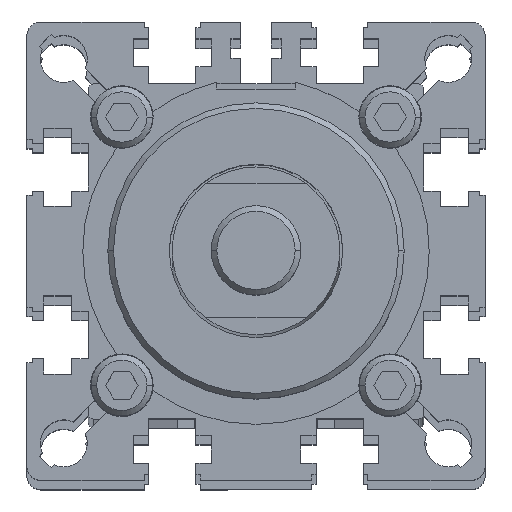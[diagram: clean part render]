
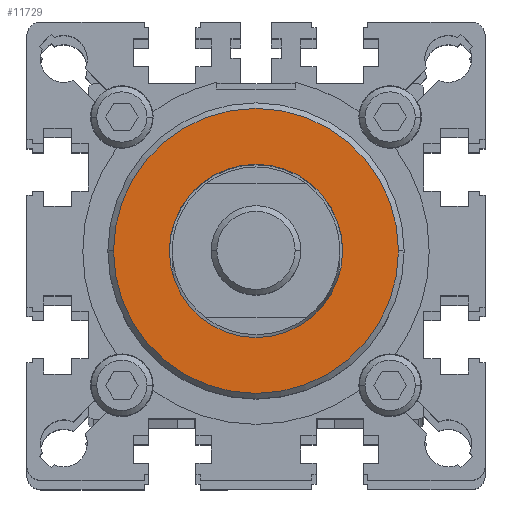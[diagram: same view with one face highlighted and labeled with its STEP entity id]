
A CAD part, top view. The second image highlights one B-rep face of the part: STEP entity #11729.
In plain terms, the highlighted planar face has unit normal (0, 0, 1) as drawn and (1, 0, 0) by its records, which use the part's own axes.
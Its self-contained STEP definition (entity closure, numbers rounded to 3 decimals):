
#1478 = CIRCLE ( 'NONE', #7503, 25.5 ) ;
#1507 = CARTESIAN_POINT ( 'NONE',  ( 20., 0., 15.5 ) ) ;
#1859 = EDGE_LOOP ( 'NONE', ( #17895, #16925 ) ) ;
#2451 = DIRECTION ( 'NONE',  ( 0., 0., -1. ) ) ;
#3066 = AXIS2_PLACEMENT_3D ( 'NONE', #14103, #12209, #12002 ) ;
#4888 = EDGE_LOOP ( 'NONE', ( #5136, #8253 ) ) ;
#5136 = ORIENTED_EDGE ( 'NONE', *, *, #8830, .F. ) ;
#5661 = DIRECTION ( 'NONE',  ( 0., 0., -1. ) ) ;
#6095 = DIRECTION ( 'NONE',  ( 1., 0., 0. ) ) ;
#6790 = AXIS2_PLACEMENT_3D ( 'NONE', #10989, #11090, #2451 ) ;
#7503 = AXIS2_PLACEMENT_3D ( 'NONE', #7549, #6095, #9649 ) ;
#7549 = CARTESIAN_POINT ( 'NONE',  ( 20., 0., 0. ) ) ;
#7593 = EDGE_CURVE ( 'NONE', #14303, #20110, #13355, .T. ) ;
#7662 = FACE_BOUND ( 'NONE', #4888, .T. ) ;
#8253 = ORIENTED_EDGE ( 'NONE', *, *, #7593, .F. ) ;
#8722 = CIRCLE ( 'NONE', #3066, 15.5 ) ;
#8830 = EDGE_CURVE ( 'NONE', #20110, #14303, #8722, .T. ) ;
#9649 = DIRECTION ( 'NONE',  ( 0., 0., -1. ) ) ;
#10034 = VERTEX_POINT ( 'NONE', #13775 ) ;
#10398 = VERTEX_POINT ( 'NONE', #17400 ) ;
#10516 = DIRECTION ( 'NONE',  ( 1., 0., 0. ) ) ;
#10873 = EDGE_CURVE ( 'NONE', #10398, #10034, #11015, .T. ) ;
#10989 = CARTESIAN_POINT ( 'NONE',  ( 20., 0., 0. ) ) ;
#11015 = CIRCLE ( 'NONE', #20231, 25.5 ) ;
#11090 = DIRECTION ( 'NONE',  ( 1., 0., 0. ) ) ;
#11708 = EDGE_CURVE ( 'NONE', #10034, #10398, #1478, .T. ) ;
#11729 = ADVANCED_FACE ( 'NONE', ( #19424, #7662 ), #16406, .T. ) ;
#12002 = DIRECTION ( 'NONE',  ( 0., 0., -1. ) ) ;
#12164 = CARTESIAN_POINT ( 'NONE',  ( 20., 0., 0. ) ) ;
#12209 = DIRECTION ( 'NONE',  ( 1., 0., 0. ) ) ;
#12877 = DIRECTION ( 'NONE',  ( 1., 0., 0. ) ) ;
#13355 = CIRCLE ( 'NONE', #15128, 15.5 ) ;
#13775 = CARTESIAN_POINT ( 'NONE',  ( 20., 0., 25.5 ) ) ;
#14103 = CARTESIAN_POINT ( 'NONE',  ( 20., 0., 0. ) ) ;
#14303 = VERTEX_POINT ( 'NONE', #1507 ) ;
#15128 = AXIS2_PLACEMENT_3D ( 'NONE', #15879, #12877, #5661 ) ;
#15879 = CARTESIAN_POINT ( 'NONE',  ( 20., 0., 0. ) ) ;
#16406 = PLANE ( 'NONE',  #6790 ) ;
#16925 = ORIENTED_EDGE ( 'NONE', *, *, #10873, .T. ) ;
#17274 = DIRECTION ( 'NONE',  ( 0., 0., -1. ) ) ;
#17400 = CARTESIAN_POINT ( 'NONE',  ( 20., 0., -25.5 ) ) ;
#17895 = ORIENTED_EDGE ( 'NONE', *, *, #11708, .T. ) ;
#18186 = CARTESIAN_POINT ( 'NONE',  ( 20., 0., -15.5 ) ) ;
#19424 = FACE_OUTER_BOUND ( 'NONE', #1859, .T. ) ;
#20110 = VERTEX_POINT ( 'NONE', #18186 ) ;
#20231 = AXIS2_PLACEMENT_3D ( 'NONE', #12164, #10516, #17274 ) ;
